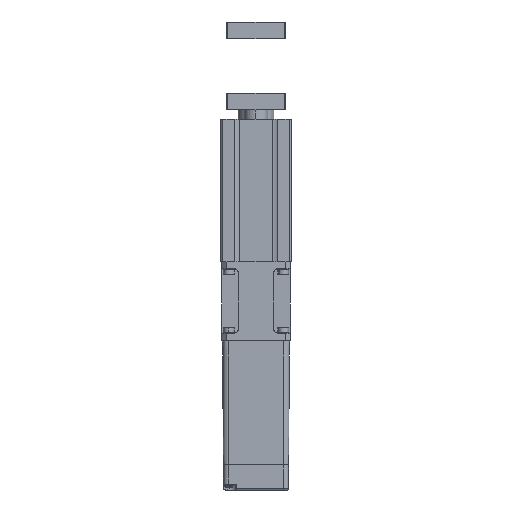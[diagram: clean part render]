
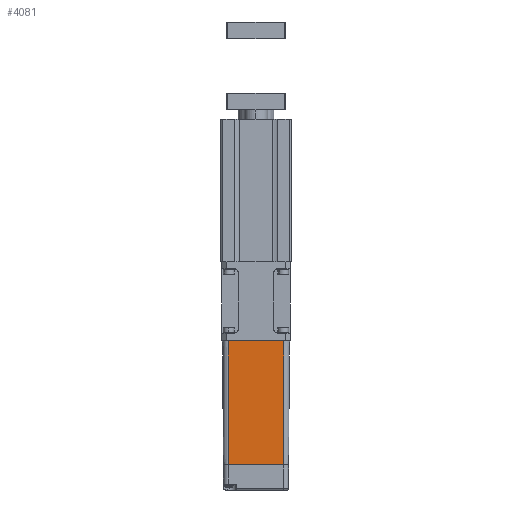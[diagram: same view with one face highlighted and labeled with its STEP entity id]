
A CAD part, left-side view. The second image highlights one B-rep face of the part: STEP entity #4081.
In plain terms, the highlighted planar face has unit normal (-1, 0, -0.009) as drawn and (1, 0, 0.009) by its records, which use the part's own axes.
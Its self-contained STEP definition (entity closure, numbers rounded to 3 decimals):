
#103 = VERTEX_POINT ( 'NONE', #8059 ) ;
#315 = CARTESIAN_POINT ( 'NONE',  ( 14.907, 5.873, 46.95 ) ) ;
#732 = VECTOR ( 'NONE', #3113, 1000. ) ;
#859 = ORIENTED_EDGE ( 'NONE', *, *, #5911, .T. ) ;
#1332 = CARTESIAN_POINT ( 'NONE',  ( 14.451, 5.873, 99.15 ) ) ;
#1561 = EDGE_LOOP ( 'NONE', ( #2761, #2371, #859, #11383 ) ) ;
#2371 = ORIENTED_EDGE ( 'NONE', *, *, #6306, .T. ) ;
#2431 = CARTESIAN_POINT ( 'NONE',  ( 14.909, -17.427, 46.65 ) ) ;
#2717 = VERTEX_POINT ( 'NONE', #1332 ) ;
#2722 = DIRECTION ( 'NONE',  ( 1., 0., 0.009 ) ) ;
#2761 = ORIENTED_EDGE ( 'NONE', *, *, #5098, .F. ) ;
#3078 = FACE_OUTER_BOUND ( 'NONE', #1561, .T. ) ;
#3113 = DIRECTION ( 'NONE',  ( 0., 1., 0. ) ) ;
#3498 = LINE ( 'NONE', #11763, #9975 ) ;
#4076 = LINE ( 'NONE', #11611, #8947 ) ;
#4081 = ADVANCED_FACE ( 'NONE', ( #3078 ), #5375, .T. ) ;
#4495 = DIRECTION ( 'NONE',  ( 0., -1., 0. ) ) ;
#5098 = EDGE_CURVE ( 'NONE', #103, #6466, #10548, .T. ) ;
#5234 = EDGE_CURVE ( 'NONE', #2717, #6466, #4076, .T. ) ;
#5261 = DIRECTION ( 'NONE',  ( 0., -1., 0. ) ) ;
#5279 = CARTESIAN_POINT ( 'NONE',  ( 14.451, -17.427, 99.15 ) ) ;
#5375 = PLANE ( 'NONE',  #7949 ) ;
#5911 = EDGE_CURVE ( 'NONE', #7154, #2717, #3498, .T. ) ;
#6306 = EDGE_CURVE ( 'NONE', #103, #7154, #11871, .T. ) ;
#6466 = VERTEX_POINT ( 'NONE', #5279 ) ;
#7154 = VERTEX_POINT ( 'NONE', #315 ) ;
#7690 = CARTESIAN_POINT ( 'NONE',  ( 14.909, -17.427, 46.65 ) ) ;
#7949 = AXIS2_PLACEMENT_3D ( 'NONE', #2431, #2722, #4495 ) ;
#8059 = CARTESIAN_POINT ( 'NONE',  ( 14.907, -17.427, 46.95 ) ) ;
#8528 = CARTESIAN_POINT ( 'NONE',  ( 14.907, -17.427, 46.95 ) ) ;
#8632 = DIRECTION ( 'NONE',  ( -0.009, 0., 1. ) ) ;
#8947 = VECTOR ( 'NONE', #5261, 1000. ) ;
#9975 = VECTOR ( 'NONE', #10819, 1000. ) ;
#10548 = LINE ( 'NONE', #7690, #10695 ) ;
#10695 = VECTOR ( 'NONE', #8632, 1000. ) ;
#10819 = DIRECTION ( 'NONE',  ( -0.009, 0., 1. ) ) ;
#11383 = ORIENTED_EDGE ( 'NONE', *, *, #5234, .T. ) ;
#11611 = CARTESIAN_POINT ( 'NONE',  ( 14.451, 5.873, 99.15 ) ) ;
#11763 = CARTESIAN_POINT ( 'NONE',  ( 14.909, 5.873, 46.65 ) ) ;
#11871 = LINE ( 'NONE', #8528, #732 ) ;
